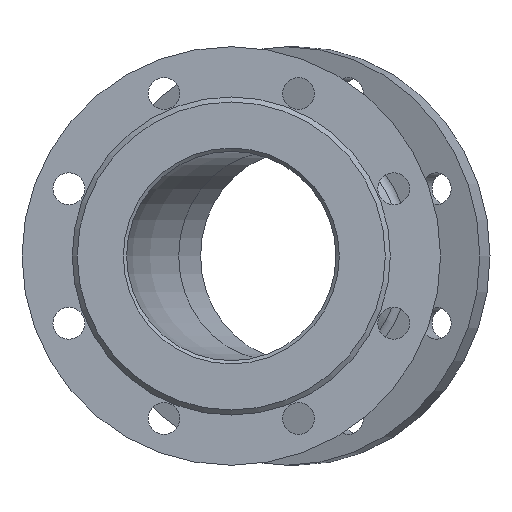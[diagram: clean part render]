
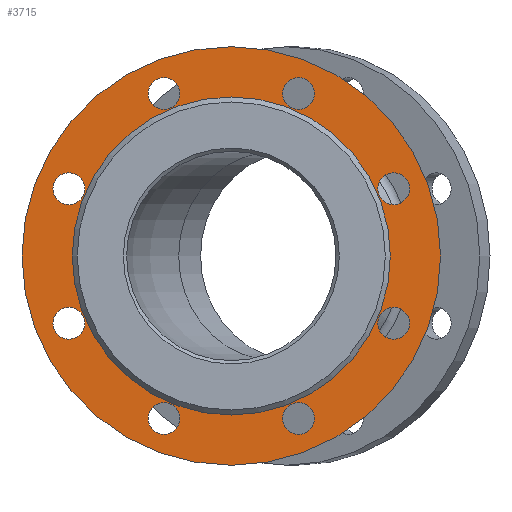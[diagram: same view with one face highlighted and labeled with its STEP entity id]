
A CAD part, left-side view. The second image highlights one B-rep face of the part: STEP entity #3715.
In plain terms, the highlighted planar face has unit normal (-1, 0, 0).
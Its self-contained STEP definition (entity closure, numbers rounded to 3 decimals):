
#90 = VERTEX_POINT ( 'NONE', #700 ) ;
#101 = CIRCLE ( 'NONE', #2393, 9.5 ) ;
#129 = CARTESIAN_POINT ( 'NONE',  ( -102., 97.007, -40.182 ) ) ;
#171 = FACE_BOUND ( 'NONE', #257, .T. ) ;
#257 = EDGE_LOOP ( 'NONE', ( #2294 ) ) ;
#292 = EDGE_CURVE ( 'NONE', #678, #678, #3670, .T. ) ;
#328 = CARTESIAN_POINT ( 'NONE',  ( -102., -97.007, 30.682 ) ) ;
#352 = DIRECTION ( 'NONE',  ( -1., 0., 0. ) ) ;
#390 = VERTEX_POINT ( 'NONE', #2267 ) ;
#417 = CIRCLE ( 'NONE', #2712, 9.5 ) ;
#433 = ORIENTED_EDGE ( 'NONE', *, *, #3496, .F. ) ;
#466 = FACE_BOUND ( 'NONE', #2110, .T. ) ;
#528 = DIRECTION ( 'NONE',  ( 0., 0., -1. ) ) ;
#678 = VERTEX_POINT ( 'NONE', #2865 ) ;
#700 = CARTESIAN_POINT ( 'NONE',  ( -102., 0., -95. ) ) ;
#721 = VERTEX_POINT ( 'NONE', #328 ) ;
#723 = DIRECTION ( 'NONE',  ( -1., 0., 0. ) ) ;
#732 = AXIS2_PLACEMENT_3D ( 'NONE', #1712, #2981, #2658 ) ;
#768 = ORIENTED_EDGE ( 'NONE', *, *, #1861, .F. ) ;
#775 = CARTESIAN_POINT ( 'NONE',  ( -102., -40.182, 87.507 ) ) ;
#798 = FACE_BOUND ( 'NONE', #1871, .T. ) ;
#864 = DIRECTION ( 'NONE',  ( 0., 0., -1. ) ) ;
#876 = CIRCLE ( 'NONE', #2066, 95. ) ;
#892 = EDGE_CURVE ( 'NONE', #3194, #3194, #3680, .T. ) ;
#903 = EDGE_LOOP ( 'NONE', ( #3629 ) ) ;
#982 = ORIENTED_EDGE ( 'NONE', *, *, #1016, .F. ) ;
#1016 = EDGE_CURVE ( 'NONE', #390, #390, #2960, .T. ) ;
#1023 = VERTEX_POINT ( 'NONE', #3480 ) ;
#1067 = FACE_BOUND ( 'NONE', #3125, .T. ) ;
#1109 = DIRECTION ( 'NONE',  ( 0., 0., -1. ) ) ;
#1124 = FACE_BOUND ( 'NONE', #2506, .T. ) ;
#1145 = FACE_BOUND ( 'NONE', #3299, .T. ) ;
#1200 = CIRCLE ( 'NONE', #3492, 9.5 ) ;
#1205 = AXIS2_PLACEMENT_3D ( 'NONE', #1209, #3419, #2471 ) ;
#1209 = CARTESIAN_POINT ( 'NONE',  ( -102., -40.182, 97.007 ) ) ;
#1256 = EDGE_CURVE ( 'NONE', #3152, #3152, #2202, .T. ) ;
#1432 = VERTEX_POINT ( 'NONE', #3289 ) ;
#1492 = EDGE_CURVE ( 'NONE', #721, #721, #417, .T. ) ;
#1584 = DIRECTION ( 'NONE',  ( 0., 0., -1. ) ) ;
#1643 = DIRECTION ( 'NONE',  ( 0., 0., -1. ) ) ;
#1669 = CIRCLE ( 'NONE', #2205, 9.5 ) ;
#1697 = DIRECTION ( 'NONE',  ( -1., 0., 0. ) ) ;
#1712 = CARTESIAN_POINT ( 'NONE',  ( -102., 40.182, 97.007 ) ) ;
#1721 = PLANE ( 'NONE',  #1933 ) ;
#1745 = DIRECTION ( 'NONE',  ( 1., 0., 0. ) ) ;
#1839 = ORIENTED_EDGE ( 'NONE', *, *, #3966, .F. ) ;
#1858 = AXIS2_PLACEMENT_3D ( 'NONE', #3910, #2369, #864 ) ;
#1861 = EDGE_CURVE ( 'NONE', #1023, #1023, #1200, .T. ) ;
#1871 = EDGE_LOOP ( 'NONE', ( #433 ) ) ;
#1933 = AXIS2_PLACEMENT_3D ( 'NONE', #2972, #1745, #528 ) ;
#1971 = CARTESIAN_POINT ( 'NONE',  ( -102., 40.182, -106.507 ) ) ;
#2066 = AXIS2_PLACEMENT_3D ( 'NONE', #3509, #3200, #1643 ) ;
#2110 = EDGE_LOOP ( 'NONE', ( #768 ) ) ;
#2202 = CIRCLE ( 'NONE', #3878, 9.5 ) ;
#2205 = AXIS2_PLACEMENT_3D ( 'NONE', #3703, #2222, #3109 ) ;
#2212 = ORIENTED_EDGE ( 'NONE', *, *, #2812, .F. ) ;
#2222 = DIRECTION ( 'NONE',  ( -1., 0., 0. ) ) ;
#2223 = EDGE_CURVE ( 'NONE', #90, #90, #876, .T. ) ;
#2263 = CARTESIAN_POINT ( 'NONE',  ( -102., -97.007, 40.182 ) ) ;
#2267 = CARTESIAN_POINT ( 'NONE',  ( -102., 0., -125. ) ) ;
#2284 = CARTESIAN_POINT ( 'NONE',  ( -102., 97.007, -49.682 ) ) ;
#2288 = DIRECTION ( 'NONE',  ( 0., 0., -1. ) ) ;
#2294 = ORIENTED_EDGE ( 'NONE', *, *, #292, .F. ) ;
#2323 = VERTEX_POINT ( 'NONE', #2641 ) ;
#2343 = VERTEX_POINT ( 'NONE', #775 ) ;
#2369 = DIRECTION ( 'NONE',  ( 1., 0., 0. ) ) ;
#2393 = AXIS2_PLACEMENT_3D ( 'NONE', #3811, #352, #2288 ) ;
#2409 = FACE_OUTER_BOUND ( 'NONE', #3895, .T. ) ;
#2422 = ORIENTED_EDGE ( 'NONE', *, *, #892, .F. ) ;
#2471 = DIRECTION ( 'NONE',  ( 0., 0., -1. ) ) ;
#2506 = EDGE_LOOP ( 'NONE', ( #2422 ) ) ;
#2641 = CARTESIAN_POINT ( 'NONE',  ( -102., -40.182, -106.507 ) ) ;
#2658 = DIRECTION ( 'NONE',  ( 0., 0., -1. ) ) ;
#2712 = AXIS2_PLACEMENT_3D ( 'NONE', #2263, #1697, #3845 ) ;
#2738 = EDGE_LOOP ( 'NONE', ( #1839 ) ) ;
#2812 = EDGE_CURVE ( 'NONE', #2323, #2323, #1669, .T. ) ;
#2865 = CARTESIAN_POINT ( 'NONE',  ( -102., 40.182, 87.507 ) ) ;
#2893 = ORIENTED_EDGE ( 'NONE', *, *, #1256, .F. ) ;
#2960 = CIRCLE ( 'NONE', #1858, 125. ) ;
#2970 = CIRCLE ( 'NONE', #1205, 9.5 ) ;
#2972 = CARTESIAN_POINT ( 'NONE',  ( -102., 125., 0. ) ) ;
#2981 = DIRECTION ( 'NONE',  ( -1., 0., 0. ) ) ;
#2992 = FACE_BOUND ( 'NONE', #903, .T. ) ;
#3076 = EDGE_LOOP ( 'NONE', ( #2893 ) ) ;
#3109 = DIRECTION ( 'NONE',  ( 0., 0., -1. ) ) ;
#3125 = EDGE_LOOP ( 'NONE', ( #3363 ) ) ;
#3152 = VERTEX_POINT ( 'NONE', #2284 ) ;
#3194 = VERTEX_POINT ( 'NONE', #1971 ) ;
#3200 = DIRECTION ( 'NONE',  ( 1., 0., 0. ) ) ;
#3274 = DIRECTION ( 'NONE',  ( -1., 0., 0. ) ) ;
#3289 = CARTESIAN_POINT ( 'NONE',  ( -102., 97.007, 30.682 ) ) ;
#3299 = EDGE_LOOP ( 'NONE', ( #2212 ) ) ;
#3335 = FACE_BOUND ( 'NONE', #3076, .T. ) ;
#3363 = ORIENTED_EDGE ( 'NONE', *, *, #1492, .F. ) ;
#3383 = CARTESIAN_POINT ( 'NONE',  ( -102., -97.007, -40.182 ) ) ;
#3419 = DIRECTION ( 'NONE',  ( -1., 0., 0. ) ) ;
#3448 = DIRECTION ( 'NONE',  ( -1., 0., 0. ) ) ;
#3480 = CARTESIAN_POINT ( 'NONE',  ( -102., -97.007, -49.682 ) ) ;
#3492 = AXIS2_PLACEMENT_3D ( 'NONE', #3383, #3448, #1584 ) ;
#3496 = EDGE_CURVE ( 'NONE', #1432, #1432, #101, .T. ) ;
#3509 = CARTESIAN_POINT ( 'NONE',  ( -102., 0., 0. ) ) ;
#3629 = ORIENTED_EDGE ( 'NONE', *, *, #2223, .T. ) ;
#3642 = FACE_BOUND ( 'NONE', #2738, .T. ) ;
#3670 = CIRCLE ( 'NONE', #732, 9.5 ) ;
#3680 = CIRCLE ( 'NONE', #3874, 9.5 ) ;
#3703 = CARTESIAN_POINT ( 'NONE',  ( -102., -40.182, -97.007 ) ) ;
#3715 = ADVANCED_FACE ( 'NONE', ( #1145, #1067, #171, #3335, #2409, #2992, #798, #3642, #466, #1124 ), #1721, .F. ) ;
#3809 = DIRECTION ( 'NONE',  ( 0., 0., -1. ) ) ;
#3811 = CARTESIAN_POINT ( 'NONE',  ( -102., 97.007, 40.182 ) ) ;
#3845 = DIRECTION ( 'NONE',  ( 0., 0., -1. ) ) ;
#3874 = AXIS2_PLACEMENT_3D ( 'NONE', #3909, #3274, #1109 ) ;
#3878 = AXIS2_PLACEMENT_3D ( 'NONE', #129, #723, #3809 ) ;
#3895 = EDGE_LOOP ( 'NONE', ( #982 ) ) ;
#3909 = CARTESIAN_POINT ( 'NONE',  ( -102., 40.182, -97.007 ) ) ;
#3910 = CARTESIAN_POINT ( 'NONE',  ( -102., 0., 0. ) ) ;
#3966 = EDGE_CURVE ( 'NONE', #2343, #2343, #2970, .T. ) ;
